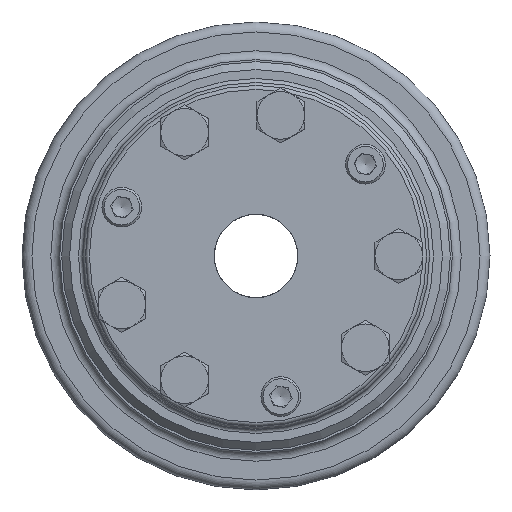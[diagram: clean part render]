
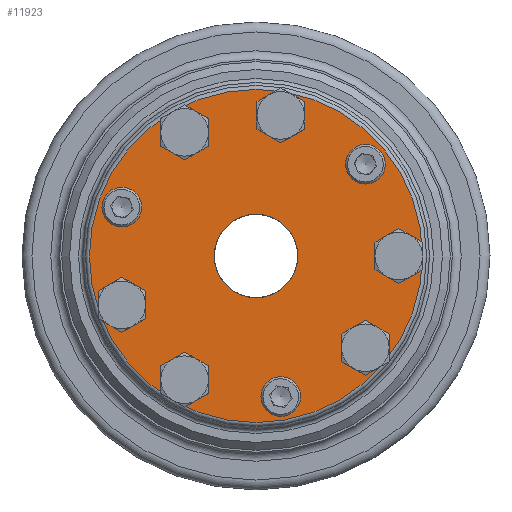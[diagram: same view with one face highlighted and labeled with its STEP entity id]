
A CAD part, left-side view. The second image highlights one B-rep face of the part: STEP entity #11923.
In plain terms, the highlighted planar face has unit normal (-1, 0, 0).
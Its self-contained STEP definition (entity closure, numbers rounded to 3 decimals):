
#1232=PLANE('',#12573);
#1559=ORIENTED_EDGE('',*,*,#3451,.F.);
#1560=ORIENTED_EDGE('',*,*,#3452,.F.);
#1561=ORIENTED_EDGE('',*,*,#3453,.F.);
#1562=ORIENTED_EDGE('',*,*,#3454,.F.);
#1563=ORIENTED_EDGE('',*,*,#3455,.F.);
#1564=ORIENTED_EDGE('',*,*,#3456,.F.);
#1565=ORIENTED_EDGE('',*,*,#3457,.F.);
#1566=ORIENTED_EDGE('',*,*,#3458,.F.);
#1567=ORIENTED_EDGE('',*,*,#3430,.F.);
#1568=ORIENTED_EDGE('',*,*,#3444,.F.);
#1569=ORIENTED_EDGE('',*,*,#3443,.T.);
#3430=EDGE_CURVE('',#5731,#5731,#4370,.T.);
#3443=EDGE_CURVE('',#5744,#5744,#4377,.T.);
#3444=EDGE_CURVE('',#5745,#5745,#4378,.T.);
#3451=EDGE_CURVE('',#5750,#5750,#4381,.T.);
#3452=EDGE_CURVE('',#5751,#5751,#4382,.T.);
#3453=EDGE_CURVE('',#5752,#5752,#4383,.T.);
#3454=EDGE_CURVE('',#5753,#5753,#4384,.T.);
#3455=EDGE_CURVE('',#5754,#5754,#4385,.T.);
#3456=EDGE_CURVE('',#5755,#5755,#4386,.T.);
#3457=EDGE_CURVE('',#5756,#5756,#4387,.T.);
#3458=EDGE_CURVE('',#5757,#5757,#4388,.T.);
#4370=CIRCLE('',#12557,10.);
#4377=CIRCLE('',#12568,84.);
#4378=CIRCLE('',#12570,21.);
#4381=CIRCLE('',#12574,11.25);
#4382=CIRCLE('',#12575,11.25);
#4383=CIRCLE('',#12576,11.25);
#4384=CIRCLE('',#12577,11.25);
#4385=CIRCLE('',#12578,11.25);
#4386=CIRCLE('',#12579,11.25);
#4387=CIRCLE('',#12580,10.);
#4388=CIRCLE('',#12581,10.);
#4739=EDGE_LOOP('',(#1559));
#4740=EDGE_LOOP('',(#1560));
#4741=EDGE_LOOP('',(#1561));
#4742=EDGE_LOOP('',(#1562));
#4743=EDGE_LOOP('',(#1563));
#4744=EDGE_LOOP('',(#1564));
#4745=EDGE_LOOP('',(#1565));
#4746=EDGE_LOOP('',(#1566));
#4747=EDGE_LOOP('',(#1567));
#4748=EDGE_LOOP('',(#1568));
#4749=EDGE_LOOP('',(#1569));
#5731=VERTEX_POINT('',#15815);
#5744=VERTEX_POINT('',#15851);
#5745=VERTEX_POINT('',#15854);
#5750=VERTEX_POINT('',#15867);
#5751=VERTEX_POINT('',#15869);
#5752=VERTEX_POINT('',#15871);
#5753=VERTEX_POINT('',#15873);
#5754=VERTEX_POINT('',#15875);
#5755=VERTEX_POINT('',#15877);
#5756=VERTEX_POINT('',#15879);
#5757=VERTEX_POINT('',#15881);
#6504=FACE_BOUND('',#4739,.T.);
#6505=FACE_BOUND('',#4740,.T.);
#6506=FACE_BOUND('',#4741,.T.);
#6507=FACE_BOUND('',#4742,.T.);
#6508=FACE_BOUND('',#4743,.T.);
#6509=FACE_BOUND('',#4744,.T.);
#6510=FACE_BOUND('',#4745,.T.);
#6511=FACE_BOUND('',#4746,.T.);
#6512=FACE_BOUND('',#4747,.T.);
#6513=FACE_BOUND('',#4748,.T.);
#6514=FACE_BOUND('',#4749,.T.);
#11923=ADVANCED_FACE('',(#6504,#6505,#6506,#6507,#6508,#6509,#6510,#6511,
#6512,#6513,#6514),#1232,.T.);
#12557=AXIS2_PLACEMENT_3D('',#15814,#13570,#13571);
#12568=AXIS2_PLACEMENT_3D('',#15850,#13596,#13597);
#12570=AXIS2_PLACEMENT_3D('',#15853,#13600,#13601);
#12573=AXIS2_PLACEMENT_3D('',#15865,#13610,#13611);
#12574=AXIS2_PLACEMENT_3D('',#15866,#13612,#13613);
#12575=AXIS2_PLACEMENT_3D('',#15868,#13614,#13615);
#12576=AXIS2_PLACEMENT_3D('',#15870,#13616,#13617);
#12577=AXIS2_PLACEMENT_3D('',#15872,#13618,#13619);
#12578=AXIS2_PLACEMENT_3D('',#15874,#13620,#13621);
#12579=AXIS2_PLACEMENT_3D('',#15876,#13622,#13623);
#12580=AXIS2_PLACEMENT_3D('',#15878,#13624,#13625);
#12581=AXIS2_PLACEMENT_3D('',#15880,#13626,#13627);
#13570=DIRECTION('',(-1.,0.,0.));
#13571=DIRECTION('',(0.,-1.,0.));
#13596=DIRECTION('',(-1.,0.,0.));
#13597=DIRECTION('',(0.,0.94,-0.342));
#13600=DIRECTION('',(-1.,0.,0.));
#13601=DIRECTION('',(0.,0.94,-0.342));
#13610=DIRECTION('',(-1.,0.,0.));
#13611=DIRECTION('',(0.,0.94,-0.342));
#13612=DIRECTION('',(-1.,0.,0.));
#13613=DIRECTION('',(0.,0.,-1.));
#13614=DIRECTION('',(-1.,0.,0.));
#13615=DIRECTION('',(0.,0.,-1.));
#13616=DIRECTION('',(-1.,0.,0.));
#13617=DIRECTION('',(0.,0.,-1.));
#13618=DIRECTION('',(-1.,0.,0.));
#13619=DIRECTION('',(0.,0.,-1.));
#13620=DIRECTION('',(-1.,0.,0.));
#13621=DIRECTION('',(0.,0.,-1.));
#13622=DIRECTION('',(-1.,0.,0.));
#13623=DIRECTION('',(0.,0.,-1.));
#13624=DIRECTION('',(-1.,0.,0.));
#13625=DIRECTION('',(0.,-1.,0.));
#13626=DIRECTION('',(-1.,0.,0.));
#13627=DIRECTION('',(0.,-1.,0.));
#15814=CARTESIAN_POINT('',(-164.8,67.658,24.625));
#15815=CARTESIAN_POINT('',(-164.8,57.658,24.625));
#15850=CARTESIAN_POINT('',(-164.8,0.,0.));
#15851=CARTESIAN_POINT('',(-164.8,78.934,-28.73));
#15853=CARTESIAN_POINT('',(-164.8,0.,0.));
#15854=CARTESIAN_POINT('',(-164.8,19.734,-7.182));
#15865=CARTESIAN_POINT('',(-164.8,19.734,-7.182));
#15866=CARTESIAN_POINT('',(-164.8,67.658,-24.625));
#15867=CARTESIAN_POINT('',(-164.8,67.658,-35.875));
#15868=CARTESIAN_POINT('',(-164.8,36.,62.354));
#15869=CARTESIAN_POINT('',(-164.8,36.,51.104));
#15870=CARTESIAN_POINT('',(-164.8,-12.503,70.906));
#15871=CARTESIAN_POINT('',(-164.8,-12.503,59.656));
#15872=CARTESIAN_POINT('',(-164.8,-72.,0.));
#15873=CARTESIAN_POINT('',(-164.8,-72.,-11.25));
#15874=CARTESIAN_POINT('',(-164.8,36.,-62.354));
#15875=CARTESIAN_POINT('',(-164.8,36.,-73.604));
#15876=CARTESIAN_POINT('',(-164.8,-55.155,-46.281));
#15877=CARTESIAN_POINT('',(-164.8,-55.155,-57.531));
#15878=CARTESIAN_POINT('',(-164.8,-55.155,46.281));
#15879=CARTESIAN_POINT('',(-164.8,-65.155,46.281));
#15880=CARTESIAN_POINT('',(-164.8,-12.503,-70.906));
#15881=CARTESIAN_POINT('',(-164.8,-22.503,-70.906));
